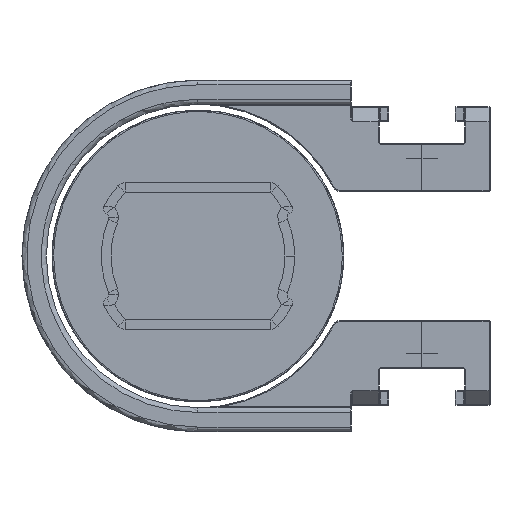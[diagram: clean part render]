
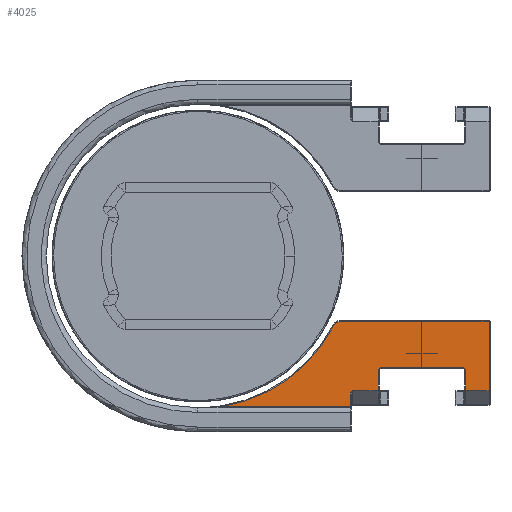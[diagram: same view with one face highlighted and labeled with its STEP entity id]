
A CAD part, left-side view. The second image highlights one B-rep face of the part: STEP entity #4025.
In plain terms, the highlighted planar face has unit normal (-1, 0, 0) as drawn and (0, 0, 1) by its records, which use the part's own axes.
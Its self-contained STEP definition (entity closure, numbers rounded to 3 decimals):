
#11 = ORIENTED_EDGE ( 'NONE', *, *, #47747, .T. ) ;
#82 = VECTOR ( 'NONE', #15042, 1000. ) ;
#1247 = CARTESIAN_POINT ( 'NONE',  ( -14.691, -7.516, 13.8 ) ) ;
#1721 = CARTESIAN_POINT ( 'NONE',  ( -13.809, -18.55, 13.8 ) ) ;
#1932 = VERTEX_POINT ( 'NONE', #15300 ) ;
#1952 = EDGE_CURVE ( 'NONE', #4645, #46038, #21118, .T. ) ;
#1993 = VERTEX_POINT ( 'NONE', #23750 ) ;
#3096 = DIRECTION ( 'NONE',  ( 0., 0., 1. ) ) ;
#3510 = VERTEX_POINT ( 'NONE', #50511 ) ;
#3975 = FACE_OUTER_BOUND ( 'NONE', #51747, .T. ) ;
#4025 = ADVANCED_FACE ( 'NONE', ( #3975 ), #44665, .T. ) ;
#4286 = EDGE_CURVE ( 'NONE', #4645, #58975, #46780, .T. ) ;
#4645 = VERTEX_POINT ( 'NONE', #23530 ) ;
#5089 = ORIENTED_EDGE ( 'NONE', *, *, #20159, .T. ) ;
#5620 = CARTESIAN_POINT ( 'NONE',  ( -6.7, 0., 13.8 ) ) ;
#5722 = CARTESIAN_POINT ( 'NONE',  ( -11.548, -18.57, 13.8 ) ) ;
#6228 = CARTESIAN_POINT ( 'NONE',  ( -7.188, -13.958, 13.8 ) ) ;
#6674 = CARTESIAN_POINT ( 'NONE',  ( -11.65, -27.55, 13.8 ) ) ;
#7885 = ORIENTED_EDGE ( 'NONE', *, *, #41763, .T. ) ;
#8387 = CARTESIAN_POINT ( 'NONE',  ( -13.839, -15.796, 13.8 ) ) ;
#8535 = EDGE_CURVE ( 'NONE', #58975, #51964, #51528, .T. ) ;
#9632 = CARTESIAN_POINT ( 'NONE',  ( -6.919, -14.146, 13.8 ) ) ;
#10040 = VERTEX_POINT ( 'NONE', #41006 ) ;
#10080 = VECTOR ( 'NONE', #53680, 1000. ) ;
#10225 = CARTESIAN_POINT ( 'NONE',  ( -11.45, -18.694, 13.8 ) ) ;
#10412 = VERTEX_POINT ( 'NONE', #46432 ) ;
#10639 = ORIENTED_EDGE ( 'NONE', *, *, #47955, .T. ) ;
#10713 = CARTESIAN_POINT ( 'NONE',  ( -7.188, -13.958, 13.8 ) ) ;
#10845 = LINE ( 'NONE', #47348, #56004 ) ;
#11148 = DIRECTION ( 'NONE',  ( 0., -1., 0. ) ) ;
#11370 = VERTEX_POINT ( 'NONE', #48386 ) ;
#12058 = CARTESIAN_POINT ( 'NONE',  ( -11.594, -27.55, 13.8 ) ) ;
#12298 = ORIENTED_EDGE ( 'NONE', *, *, #58418, .T. ) ;
#13755 = CARTESIAN_POINT ( 'NONE',  ( -13.809, -15.847, 13.8 ) ) ;
#13821 = CARTESIAN_POINT ( 'NONE',  ( -6.7, -14.758, 13.8 ) ) ;
#14769 = VECTOR ( 'NONE', #17150, 1000. ) ;
#14867 = VERTEX_POINT ( 'NONE', #1721 ) ;
#14935 = ORIENTED_EDGE ( 'NONE', *, *, #1952, .F. ) ;
#15042 = DIRECTION ( 'NONE',  ( 0., -1., 0. ) ) ;
#15290 = B_SPLINE_CURVE_WITH_KNOTS ( 'NONE', 3,
 ( #13821, #42732, #20022, #9632, #23128, #6228 ),
 .UNSPECIFIED., .F., .F.,
 ( 4, 2, 4 ),
 ( 0., 0.5, 1. ),
 .UNSPECIFIED. ) ;
#15291 = CARTESIAN_POINT ( 'NONE',  ( 0., -15.7, 13.8 ) ) ;
#15300 = CARTESIAN_POINT ( 'NONE',  ( -6.7, -29.95, 13.8 ) ) ;
#16285 = LINE ( 'NONE', #50092, #10080 ) ;
#16404 = ORIENTED_EDGE ( 'NONE', *, *, #27110, .T. ) ;
#16982 = LINE ( 'NONE', #35270, #23481 ) ;
#17003 = ORIENTED_EDGE ( 'NONE', *, *, #47649, .T. ) ;
#17150 = DIRECTION ( 'NONE',  ( 1., 0., 0. ) ) ;
#17277 = ORIENTED_EDGE ( 'NONE', *, *, #31738, .T. ) ;
#17479 = ORIENTED_EDGE ( 'NONE', *, *, #8535, .T. ) ;
#17918 = B_SPLINE_CURVE_WITH_KNOTS ( 'NONE', 3,
 ( #53336, #47671, #43470, #39883, #12058, #6674 ),
 .UNSPECIFIED., .F., .F.,
 ( 4, 2, 4 ),
 ( 0., 0.5, 1. ),
 .UNSPECIFIED. ) ;
#19592 = ORIENTED_EDGE ( 'NONE', *, *, #25705, .F. ) ;
#19667 = B_SPLINE_CURVE_WITH_KNOTS ( 'NONE', 3,
 ( #22770, #13755, #8387, #44862, #32017, #50263 ),
 .UNSPECIFIED., .F., .F.,
 ( 4, 2, 4 ),
 ( 0., 0.5, 1. ),
 .UNSPECIFIED. ) ;
#20022 = CARTESIAN_POINT ( 'NONE',  ( -6.744, -14.433, 13.8 ) ) ;
#20159 = EDGE_CURVE ( 'NONE', #1993, #11370, #16982, .T. ) ;
#21118 =( BOUNDED_CURVE ( )  B_SPLINE_CURVE ( 3, ( #42534, #1247, #47317, #51244 ),
 .UNSPECIFIED., .F., .F. ) 
 B_SPLINE_CURVE_WITH_KNOTS ( ( 4, 4 ),
 ( 0., 1. ),
 .UNSPECIFIED. ) 
 CURVE ( )  GEOMETRIC_REPRESENTATION_ITEM ( )  RATIONAL_B_SPLINE_CURVE ( ( 1., 0.928, 0.928, 1. ) ) 
 REPRESENTATION_ITEM ( '' )  );
#21444 = EDGE_CURVE ( 'NONE', #10040, #34326, #17918, .T. ) ;
#22411 = VERTEX_POINT ( 'NONE', #35694 ) ;
#22770 = CARTESIAN_POINT ( 'NONE',  ( -13.809, -15.9, 13.8 ) ) ;
#23128 = CARTESIAN_POINT ( 'NONE',  ( -7.038, -14.035, 13.8 ) ) ;
#23481 = VECTOR ( 'NONE', #35566, 1000. ) ;
#23530 = CARTESIAN_POINT ( 'NONE',  ( -15.5, -2.498, 13.8 ) ) ;
#23750 = CARTESIAN_POINT ( 'NONE',  ( -13.809, -27.55, 13.8 ) ) ;
#23820 = ORIENTED_EDGE ( 'NONE', *, *, #33287, .T. ) ;
#25705 = EDGE_CURVE ( 'NONE', #42319, #51964, #19667, .T. ) ;
#27110 = EDGE_CURVE ( 'NONE', #3510, #22411, #53874, .T. ) ;
#27438 = CARTESIAN_POINT ( 'NONE',  ( -14.091, -15.7, 13.8 ) ) ;
#28000 = ORIENTED_EDGE ( 'NONE', *, *, #21444, .T. ) ;
#28180 = LINE ( 'NONE', #41950, #55213 ) ;
#28186 = CARTESIAN_POINT ( 'NONE',  ( -11.65, -27.55, 13.8 ) ) ;
#28271 = DIRECTION ( 'NONE',  ( 0., -1., 0. ) ) ;
#31532 = LINE ( 'NONE', #39908, #14769 ) ;
#31738 = EDGE_CURVE ( 'NONE', #22411, #10040, #55208, .T. ) ;
#32017 = CARTESIAN_POINT ( 'NONE',  ( -14.017, -15.7, 13.8 ) ) ;
#32776 = CARTESIAN_POINT ( 'NONE',  ( -11.45, 0., 13.8 ) ) ;
#33287 = EDGE_CURVE ( 'NONE', #10412, #46038, #15290, .T. ) ;
#33572 = CARTESIAN_POINT ( 'NONE',  ( -11.45, -18.75, 13.8 ) ) ;
#33578 = DIRECTION ( 'NONE',  ( 1., 0., 0. ) ) ;
#34326 = VERTEX_POINT ( 'NONE', #28186 ) ;
#35270 = CARTESIAN_POINT ( 'NONE',  ( -13.809, 0., 13.8 ) ) ;
#35566 = DIRECTION ( 'NONE',  ( 0., -1., 0. ) ) ;
#35694 = CARTESIAN_POINT ( 'NONE',  ( -11.45, -18.75, 13.8 ) ) ;
#36049 = CARTESIAN_POINT ( 'NONE',  ( 0., 0., 13.8 ) ) ;
#38995 = CARTESIAN_POINT ( 'NONE',  ( -11.65, -18.55, 13.8 ) ) ;
#39406 = VECTOR ( 'NONE', #33578, 1000. ) ;
#39883 = CARTESIAN_POINT ( 'NONE',  ( -11.547, -27.53, 13.8 ) ) ;
#39908 = CARTESIAN_POINT ( 'NONE',  ( 0., -29.95, 13.8 ) ) ;
#40210 = DIRECTION ( 'NONE',  ( 1., 0., 0. ) ) ;
#41006 = CARTESIAN_POINT ( 'NONE',  ( -11.45, -27.35, 13.8 ) ) ;
#41359 = CARTESIAN_POINT ( 'NONE',  ( -11.595, -18.55, 13.8 ) ) ;
#41763 = EDGE_CURVE ( 'NONE', #11370, #1932, #31532, .T. ) ;
#41950 = CARTESIAN_POINT ( 'NONE',  ( 0., -27.55, 13.8 ) ) ;
#42141 = DIRECTION ( 'NONE',  ( 0., 1., 0. ) ) ;
#42319 = VERTEX_POINT ( 'NONE', #57720 ) ;
#42534 = CARTESIAN_POINT ( 'NONE',  ( -15.5, -2.498, 13.8 ) ) ;
#42568 = VECTOR ( 'NONE', #42141, 1000. ) ;
#42732 = CARTESIAN_POINT ( 'NONE',  ( -6.7, -14.59, 13.8 ) ) ;
#43470 = CARTESIAN_POINT ( 'NONE',  ( -11.47, -27.452, 13.8 ) ) ;
#44665 = PLANE ( 'NONE',  #44948 ) ;
#44862 = CARTESIAN_POINT ( 'NONE',  ( -13.944, -15.722, 13.8 ) ) ;
#44948 = AXIS2_PLACEMENT_3D ( 'NONE', #36049, #3096, #40210 ) ;
#46038 = VERTEX_POINT ( 'NONE', #10713 ) ;
#46205 = CARTESIAN_POINT ( 'NONE',  ( -15.5, -15.7, 13.8 ) ) ;
#46432 = CARTESIAN_POINT ( 'NONE',  ( -6.7, -14.758, 13.8 ) ) ;
#46513 = VECTOR ( 'NONE', #28271, 1000. ) ;
#46780 = LINE ( 'NONE', #56939, #82 ) ;
#47317 = CARTESIAN_POINT ( 'NONE',  ( -11.707, -11.631, 13.8 ) ) ;
#47348 = CARTESIAN_POINT ( 'NONE',  ( -13.809, 0., 13.8 ) ) ;
#47649 = EDGE_CURVE ( 'NONE', #1932, #10412, #47710, .T. ) ;
#47671 = CARTESIAN_POINT ( 'NONE',  ( -11.45, -27.405, 13.8 ) ) ;
#47710 = LINE ( 'NONE', #5620, #42568 ) ;
#47747 = EDGE_CURVE ( 'NONE', #14867, #3510, #16285, .T. ) ;
#47955 = EDGE_CURVE ( 'NONE', #42319, #14867, #10845, .T. ) ;
#48386 = CARTESIAN_POINT ( 'NONE',  ( -13.809, -29.95, 13.8 ) ) ;
#50092 = CARTESIAN_POINT ( 'NONE',  ( 0., -18.55, 13.8 ) ) ;
#50263 = CARTESIAN_POINT ( 'NONE',  ( -14.091, -15.7, 13.8 ) ) ;
#50511 = CARTESIAN_POINT ( 'NONE',  ( -11.65, -18.55, 13.8 ) ) ;
#51244 = CARTESIAN_POINT ( 'NONE',  ( -7.188, -13.958, 13.8 ) ) ;
#51528 = LINE ( 'NONE', #15291, #39406 ) ;
#51747 = EDGE_LOOP ( 'NONE', ( #17003, #23820, #14935, #56391, #17479, #19592, #10639, #11, #16404, #17277, #28000, #12298, #5089, #7885 ) ) ;
#51964 = VERTEX_POINT ( 'NONE', #27438 ) ;
#53336 = CARTESIAN_POINT ( 'NONE',  ( -11.45, -27.35, 13.8 ) ) ;
#53680 = DIRECTION ( 'NONE',  ( 1., 0., 0. ) ) ;
#53874 = B_SPLINE_CURVE_WITH_KNOTS ( 'NONE', 3,
 ( #38995, #41359, #5722, #56596, #10225, #33572 ),
 .UNSPECIFIED., .F., .F.,
 ( 4, 2, 4 ),
 ( 0., 0.5, 1. ),
 .UNSPECIFIED. ) ;
#55208 = LINE ( 'NONE', #32776, #46513 ) ;
#55213 = VECTOR ( 'NONE', #55711, 1000. ) ;
#55711 = DIRECTION ( 'NONE',  ( -1., 0., 0. ) ) ;
#56004 = VECTOR ( 'NONE', #11148, 1000. ) ;
#56391 = ORIENTED_EDGE ( 'NONE', *, *, #4286, .T. ) ;
#56596 = CARTESIAN_POINT ( 'NONE',  ( -11.47, -18.647, 13.8 ) ) ;
#56939 = CARTESIAN_POINT ( 'NONE',  ( -15.5, 0., 13.8 ) ) ;
#57720 = CARTESIAN_POINT ( 'NONE',  ( -13.809, -15.9, 13.8 ) ) ;
#58418 = EDGE_CURVE ( 'NONE', #34326, #1993, #28180, .T. ) ;
#58975 = VERTEX_POINT ( 'NONE', #46205 ) ;
